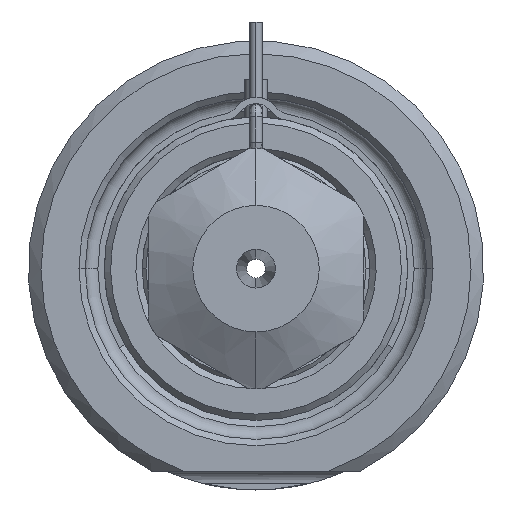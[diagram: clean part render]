
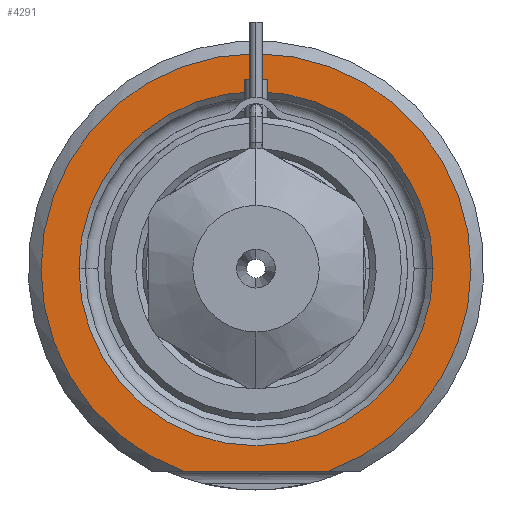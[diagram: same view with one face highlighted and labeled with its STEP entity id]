
A CAD part, front view. The second image highlights one B-rep face of the part: STEP entity #4291.
In plain terms, the highlighted planar face has unit normal (0, -1, 0).
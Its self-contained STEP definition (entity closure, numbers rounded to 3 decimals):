
#1368=CARTESIAN_POINT('',(0.,0.,0.));
#1369=DIRECTION('',(0.,-1.,0.));
#1370=DIRECTION('',(0.338,0.,-0.941));
#1371=AXIS2_PLACEMENT_3D('',#1368,#1369,#1370);
#1392=DIRECTION('',(1.,0.,0.));
#1393=VECTOR('',#1392,11.489);
#1394=CARTESIAN_POINT('',(-5.745,0.,-16.));
#1395=LINE('',#1394,#1393);
#1396=CARTESIAN_POINT('',(0.,0.,0.));
#1397=DIRECTION('',(0.,1.,0.));
#1398=DIRECTION('',(-1.,0.,0.));
#1399=AXIS2_PLACEMENT_3D('',#1396,#1397,#1398);
#1401=CARTESIAN_POINT('',(0.,0.,0.));
#1402=DIRECTION('',(0.,1.,0.));
#1403=DIRECTION('',(1.,0.,0.));
#1404=AXIS2_PLACEMENT_3D('',#1401,#1402,#1403);
#2295=CARTESIAN_POINT('',(-14.,0.,0.));
#2296=CARTESIAN_POINT('',(14.,0.,0.));
#2297=VERTEX_POINT('',#2295);
#2298=VERTEX_POINT('',#2296);
#2345=CARTESIAN_POINT('',(-5.745,0.,-16.));
#2346=CARTESIAN_POINT('',(5.745,0.,-16.));
#2347=VERTEX_POINT('',#2345);
#2348=VERTEX_POINT('',#2346);
#4276=CARTESIAN_POINT('',(0.,0.,0.));
#4277=DIRECTION('',(0.,-1.,0.));
#4278=DIRECTION('',(1.,0.,0.));
#4279=AXIS2_PLACEMENT_3D('',#4276,#4277,#4278);
#4280=PLANE('',#4279);
#4281=ORIENTED_EDGE('',*,*,#4208,.F.);
#4282=ORIENTED_EDGE('',*,*,#4268,.F.);
#4283=EDGE_LOOP('',(#4281,#4282));
#4284=FACE_OUTER_BOUND('',#4283,.F.);
#4286=ORIENTED_EDGE('',*,*,#4285,.F.);
#4288=ORIENTED_EDGE('',*,*,#4287,.F.);
#4289=EDGE_LOOP('',(#4286,#4288));
#4290=FACE_BOUND('',#4289,.F.);
#4291=ADVANCED_FACE('',(#4284,#4290),#4280,.T.);
#1372=CIRCLE('',#1371,17.);
#1400=CIRCLE('',#1399,14.);
#1405=CIRCLE('',#1404,14.);
#4208=EDGE_CURVE('',#2347,#2348,#1395,.T.);
#4268=EDGE_CURVE('',#2348,#2347,#1372,.T.);
#4285=EDGE_CURVE('',#2297,#2298,#1400,.T.);
#4287=EDGE_CURVE('',#2298,#2297,#1405,.T.);
